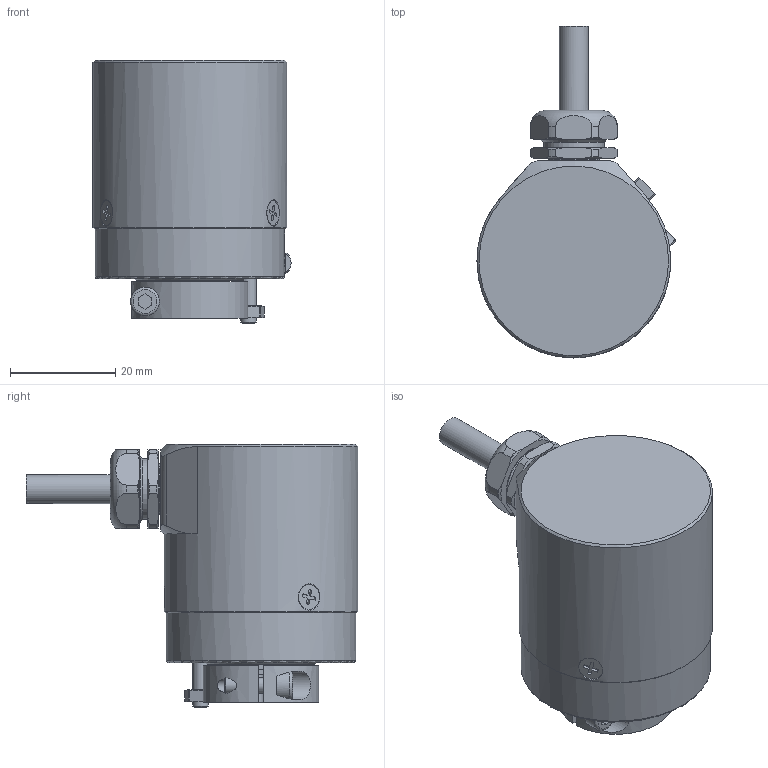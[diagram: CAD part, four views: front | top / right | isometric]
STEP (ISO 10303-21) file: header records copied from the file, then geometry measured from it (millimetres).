
FILE_DESCRIPTION(/* description */ ('Unknown'),/* implementation_level */ '2;1');
FILE_NAME(/* name */ 'EA_EAM_36G_10mm_PR',/* time_stamp */ '2019-06-26T13:02:06+02:00',/* author */ ('Unknown'),/* organization */ ('Unknown'),/* preprocessor_version */ 'ST-DEVELOPER v16.7',/* originating_system */ 'DEX',/* authorisation */ $);
FILE_SCHEMA (('AUTOMOTIVE_DESIGN { 1 0 10303 214 3 1 1 }','AUTOMOTIVE_DESIGN {1 0 10303 214 3 1 1}'));
Length unit declared in the file: millimetre
Products named in the file (1): EA_EAM_36G_10mm_PR
Bounding box: 37.63 x 63.01 x 50 mm (x, y, z)
Volume: 26160.7 mm3; surface area: 20112.3 mm2
Topology: 1 solids, 11 shells, 461 faces, 1190 edges, 784 vertices
Faces by surface type: plane 198, cylinder 138, cone 101, torus 21, sphere 3
Full cylindrical faces by diameter (mm): 1 x1, 1.221 x2, 1.45 x1, 1.6 x2, 2.013 x3, 2.459 x3, 2.5 x3, 2.7 x3, 3 x7, 3.2 x1, 3.242 x1, 5.5 x2, 7.5 x1, 7.7 x1, 8 x2, 10 x2, 11.5 x1, 11.8 x1, 11.89 x1, 12 x2, 12.5 x1, 14.5 x4, 18 x1, 18.5 x4, 21 x3, 21.1 x2, 31.3 x1, 33.6 x1, 34 x2, 36 x1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
Entity records: 16398 total; most frequent: CARTESIAN_POINT 2886, DIRECTION 2135, ORIENTED_EDGE 1942, EDGE_CURVE 971, AXIS2_PLACEMENT_3D 861, VERTEX_POINT 703, FACE_BOUND 662, EDGE_LOOP 654
